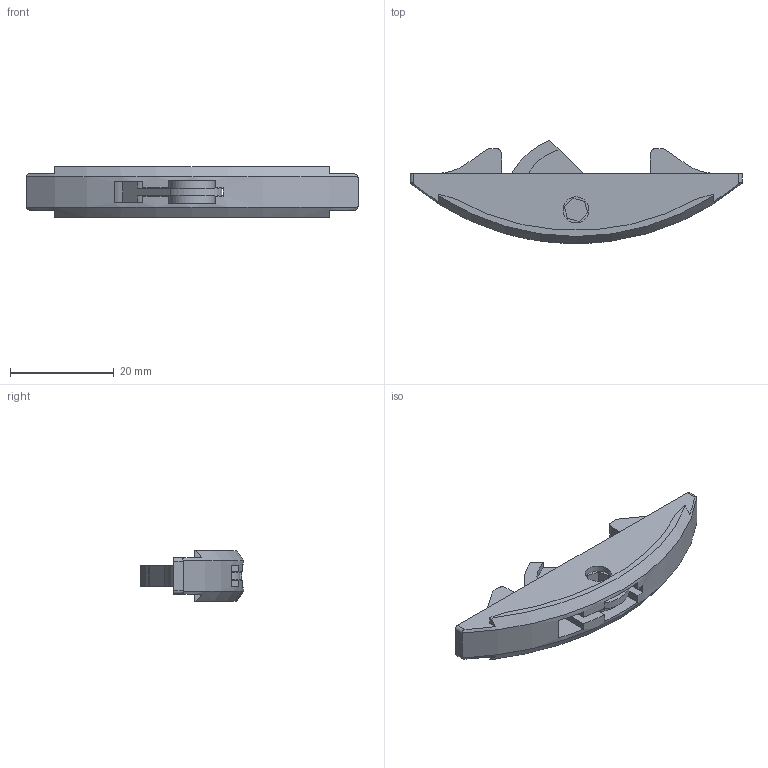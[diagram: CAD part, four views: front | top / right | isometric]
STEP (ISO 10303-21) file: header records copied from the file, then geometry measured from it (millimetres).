
FILE_DESCRIPTION(/* description */ (''),/* implementation_level */ '2;1');
FILE_NAME(/* name */ 'C:\Users\matthiask.LAMELLONET\Desktop\Öfftentliche Daten\CAD-Clamex P-14 Flexus\Clamex_P-14_Flexus_Verbinderhealfte_mit_Hebel.stp',/* time_stamp */ '2022-06-29T14:17:42+02:00',/* author */ ('matthiask'),/* organization */ (''),/* preprocessor_version */ 'ST-DEVELOPER v18',/* originating_system */ 'Autodesk Inventor 2020',/* authorisation */ '');
FILE_SCHEMA (('AUTOMOTIVE_DESIGN { 1 0 10303 214 3 1 1 }'));
Length unit declared in the file: millimetre
Products named in the file (3): CAD Clamex P-14 Flexus; Kopie von 335234; 325253-CAD
Assembly tree (2 placements, depth 2):
  CAD Clamex P-14 Flexus
    Kopie von 335234
    325253-CAD
Bounding box: 64 x 19.88 x 9.8 mm (x, y, z)
Volume: 4487.6 mm3; surface area: 3921.9 mm2
Topology: 2 solids, 2 shells, 81 faces, 221 edges, 148 vertices
Faces by surface type: plane 54, cylinder 25, cone 2
Full cylindrical faces by diameter (mm): 5 x1, 8.9 x2
Entity records: 2797 total; most frequent: CARTESIAN_POINT 531, DIRECTION 443, ORIENTED_EDGE 442, EDGE_CURVE 221, VERTEX_POINT 148, AXIS2_PLACEMENT_3D 148, LINE 147, VECTOR 147
